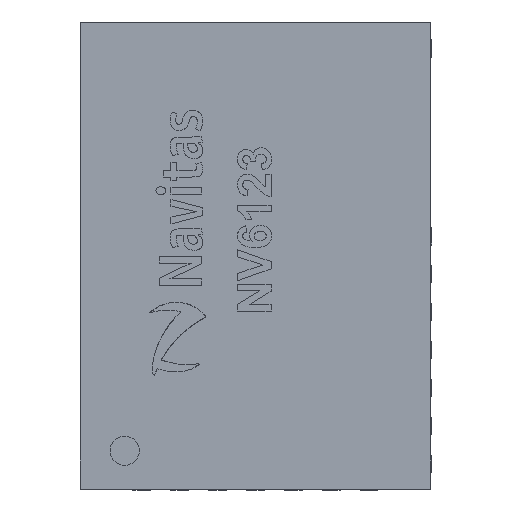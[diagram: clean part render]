
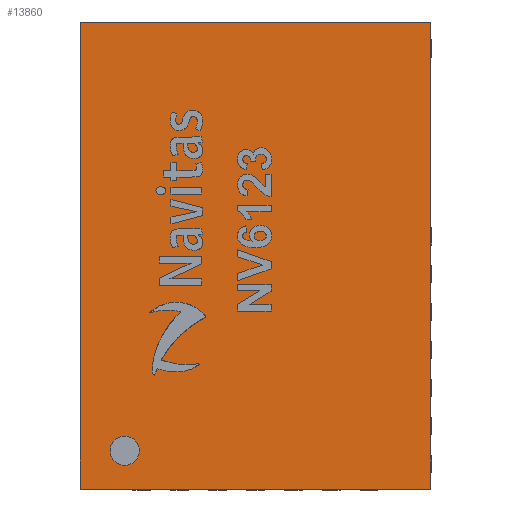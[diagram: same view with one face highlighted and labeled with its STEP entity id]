
A CAD part, top view. The second image highlights one B-rep face of the part: STEP entity #13860.
In plain terms, the highlighted planar face has unit normal (0, 0, 1).
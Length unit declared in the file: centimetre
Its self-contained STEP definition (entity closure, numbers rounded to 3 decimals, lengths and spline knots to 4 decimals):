
#1629=FACE_OUTER_BOUND($,#2448,.T.);
#2448=EDGE_LOOP($,(#9199,#9200,#9201,#9202));
#3281=LINE($,#16857,#4423);
#3282=LINE($,#16859,#4424);
#3283=LINE($,#16861,#4425);
#3284=LINE($,#16862,#4426);
#4423=VECTOR($,#15096,0.6);
#4424=VECTOR($,#15097,0.8);
#4425=VECTOR($,#15098,0.6);
#4426=VECTOR($,#15099,0.8);
#5565=VERTEX_POINT($,#16855);
#5566=VERTEX_POINT($,#16856);
#5567=VERTEX_POINT($,#16858);
#5568=VERTEX_POINT($,#16860);
#7019=EDGE_CURVE($,#5565,#5566,#3281,.T.);
#7020=EDGE_CURVE($,#5566,#5567,#3282,.T.);
#7021=EDGE_CURVE($,#5567,#5568,#3283,.T.);
#7022=EDGE_CURVE($,#5568,#5565,#3284,.T.);
#9199=ORIENTED_EDGE($,*,*,#7019,.T.);
#9200=ORIENTED_EDGE($,*,*,#7020,.T.);
#9201=ORIENTED_EDGE($,*,*,#7021,.T.);
#9202=ORIENTED_EDGE($,*,*,#7022,.T.);
#13556=PLANE($,#14780);
#13860=ADVANCED_FACE($,(#1629),#13556,.F.);
#14780=AXIS2_PLACEMENT_3D($,#16854,#15094,#15095);
#15094=DIRECTION('center_axis',(0.,0.,-1.));
#15095=DIRECTION('ref_axis',(0.,-1.,0.));
#15096=DIRECTION($,(1.,0.,0.));
#15097=DIRECTION($,(0.,1.,0.));
#15098=DIRECTION($,(-1.,0.,0.));
#15099=DIRECTION($,(0.,-1.,0.));
#16854=CARTESIAN_POINT('Origin',(-0.306,0.4051,0.095));
#16855=CARTESIAN_POINT('',(-0.606,0.0051,0.095));
#16856=CARTESIAN_POINT('',(-0.006,0.0051,0.095));
#16857=CARTESIAN_POINT($,(-0.306,0.0051,0.095));
#16858=CARTESIAN_POINT('',(-0.006,0.8051,0.095));
#16859=CARTESIAN_POINT($,(-0.006,0.4051,0.095));
#16860=CARTESIAN_POINT('',(-0.606,0.8051,0.095));
#16861=CARTESIAN_POINT($,(-0.306,0.8051,0.095));
#16862=CARTESIAN_POINT($,(-0.606,0.4051,0.095));
